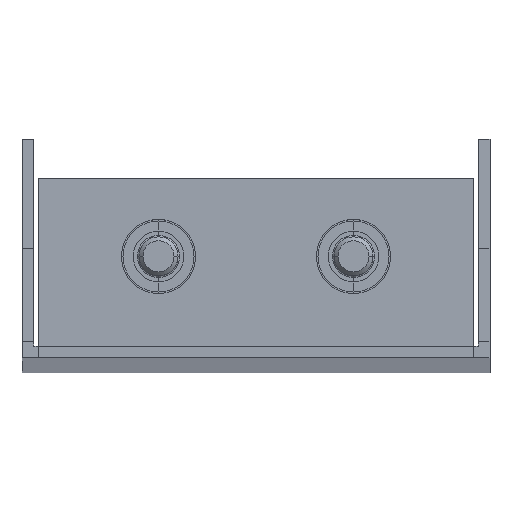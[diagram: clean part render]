
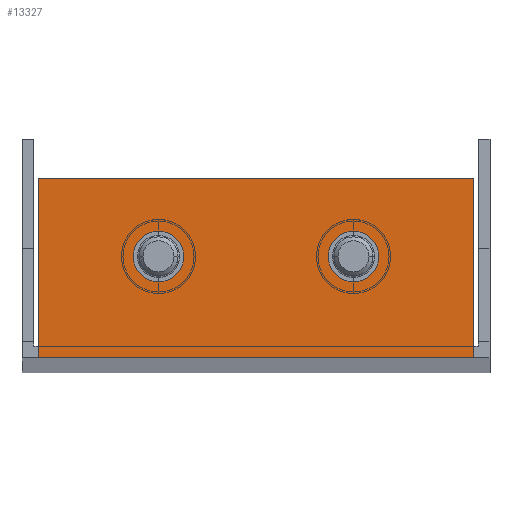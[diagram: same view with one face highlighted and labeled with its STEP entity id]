
A CAD part, top view. The second image highlights one B-rep face of the part: STEP entity #13327.
In plain terms, the highlighted planar face has unit normal (0, 0, 1).
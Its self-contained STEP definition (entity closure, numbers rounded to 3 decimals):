
#3922 = VERTEX_POINT('',#3923);
#3923 = CARTESIAN_POINT('',(-9.25,13.,544.5));
#3929 = EDGE_CURVE('',#3930,#3922,#3932,.T.);
#3930 = VERTEX_POINT('',#3931);
#3931 = CARTESIAN_POINT('',(-15.75,13.,544.5));
#3932 = CIRCLE('',#3933,3.25);
#3933 = AXIS2_PLACEMENT_3D('',#3934,#3935,#3936);
#3934 = CARTESIAN_POINT('',(-12.5,13.,544.5));
#3935 = DIRECTION('',(0.,0.,1.));
#3936 = DIRECTION('',(1.,0.,-0.));
#3964 = VERTEX_POINT('',#3965);
#3965 = CARTESIAN_POINT('',(15.75,13.,544.5));
#3971 = EDGE_CURVE('',#3972,#3964,#3974,.T.);
#3972 = VERTEX_POINT('',#3973);
#3973 = CARTESIAN_POINT('',(9.25,13.,544.5));
#3974 = CIRCLE('',#3975,3.25);
#3975 = AXIS2_PLACEMENT_3D('',#3976,#3977,#3978);
#3976 = CARTESIAN_POINT('',(12.5,13.,544.5));
#3977 = DIRECTION('',(0.,0.,1.));
#3978 = DIRECTION('',(-1.,0.,0.));
#9757 = VERTEX_POINT('',#9758);
#9758 = CARTESIAN_POINT('',(-27.9,0.,544.5));
#9828 = VERTEX_POINT('',#9829);
#9829 = CARTESIAN_POINT('',(27.9,0.,544.5));
#9835 = EDGE_CURVE('',#9757,#9828,#9836,.T.);
#9836 = LINE('',#9837,#9838);
#9837 = CARTESIAN_POINT('',(-30.,0.,544.5));
#9838 = VECTOR('',#9839,1.);
#9839 = DIRECTION('',(1.,0.,0.));
#13206 = VERTEX_POINT('',#13207);
#13207 = CARTESIAN_POINT('',(-27.9,2.1,544.5));
#13222 = EDGE_CURVE('',#13206,#9757,#13223,.T.);
#13223 = LINE('',#13224,#13225);
#13224 = CARTESIAN_POINT('',(-27.9,2.1,544.5));
#13225 = VECTOR('',#13226,1.);
#13226 = DIRECTION('',(0.,-1.,0.));
#13246 = VERTEX_POINT('',#13247);
#13247 = CARTESIAN_POINT('',(27.9,2.1,544.5));
#13253 = EDGE_CURVE('',#13246,#9828,#13254,.T.);
#13254 = LINE('',#13255,#13256);
#13255 = CARTESIAN_POINT('',(27.9,0.,544.5));
#13256 = VECTOR('',#13257,1.);
#13257 = DIRECTION('',(-0.,-1.,-0.));
#13279 = VERTEX_POINT('',#13280);
#13280 = CARTESIAN_POINT('',(27.9,23.,544.5));
#13286 = EDGE_CURVE('',#13246,#13279,#13287,.T.);
#13287 = LINE('',#13288,#13289);
#13288 = CARTESIAN_POINT('',(27.9,0.,544.5));
#13289 = VECTOR('',#13290,1.);
#13290 = DIRECTION('',(0.,1.,0.));
#13301 = EDGE_CURVE('',#13302,#13206,#13304,.T.);
#13302 = VERTEX_POINT('',#13303);
#13303 = CARTESIAN_POINT('',(-27.9,23.,544.5));
#13304 = LINE('',#13305,#13306);
#13305 = CARTESIAN_POINT('',(-27.9,0.,544.5));
#13306 = VECTOR('',#13307,1.);
#13307 = DIRECTION('',(0.,-1.,0.));
#13327 = ADVANCED_FACE('',(#13328,#13338,#13348),#13361,.F.);
#13328 = FACE_BOUND('',#13329,.T.);
#13329 = EDGE_LOOP('',(#13330,#13337));
#13330 = ORIENTED_EDGE('',*,*,#13331,.F.);
#13331 = EDGE_CURVE('',#3922,#3930,#13332,.T.);
#13332 = CIRCLE('',#13333,3.25);
#13333 = AXIS2_PLACEMENT_3D('',#13334,#13335,#13336);
#13334 = CARTESIAN_POINT('',(-12.5,13.,544.5));
#13335 = DIRECTION('',(0.,0.,1.));
#13336 = DIRECTION('',(1.,0.,-0.));
#13337 = ORIENTED_EDGE('',*,*,#3929,.F.);
#13338 = FACE_BOUND('',#13339,.T.);
#13339 = EDGE_LOOP('',(#13340,#13347));
#13340 = ORIENTED_EDGE('',*,*,#13341,.F.);
#13341 = EDGE_CURVE('',#3964,#3972,#13342,.T.);
#13342 = CIRCLE('',#13343,3.25);
#13343 = AXIS2_PLACEMENT_3D('',#13344,#13345,#13346);
#13344 = CARTESIAN_POINT('',(12.5,13.,544.5));
#13345 = DIRECTION('',(0.,0.,1.));
#13346 = DIRECTION('',(-1.,0.,0.));
#13347 = ORIENTED_EDGE('',*,*,#3971,.F.);
#13348 = FACE_BOUND('',#13349,.T.);
#13349 = EDGE_LOOP('',(#13350,#13351,#13352,#13353,#13354,#13355));
#13350 = ORIENTED_EDGE('',*,*,#13301,.T.);
#13351 = ORIENTED_EDGE('',*,*,#13222,.T.);
#13352 = ORIENTED_EDGE('',*,*,#9835,.T.);
#13353 = ORIENTED_EDGE('',*,*,#13253,.F.);
#13354 = ORIENTED_EDGE('',*,*,#13286,.T.);
#13355 = ORIENTED_EDGE('',*,*,#13356,.T.);
#13356 = EDGE_CURVE('',#13279,#13302,#13357,.T.);
#13357 = LINE('',#13358,#13359);
#13358 = CARTESIAN_POINT('',(0.,23.,544.5));
#13359 = VECTOR('',#13360,1.);
#13360 = DIRECTION('',(-1.,0.,0.));
#13361 = PLANE('',#13362);
#13362 = AXIS2_PLACEMENT_3D('',#13363,#13364,#13365);
#13363 = CARTESIAN_POINT('',(0.,0.,544.5));
#13364 = DIRECTION('',(0.,0.,-1.));
#13365 = DIRECTION('',(-1.,0.,-0.));
